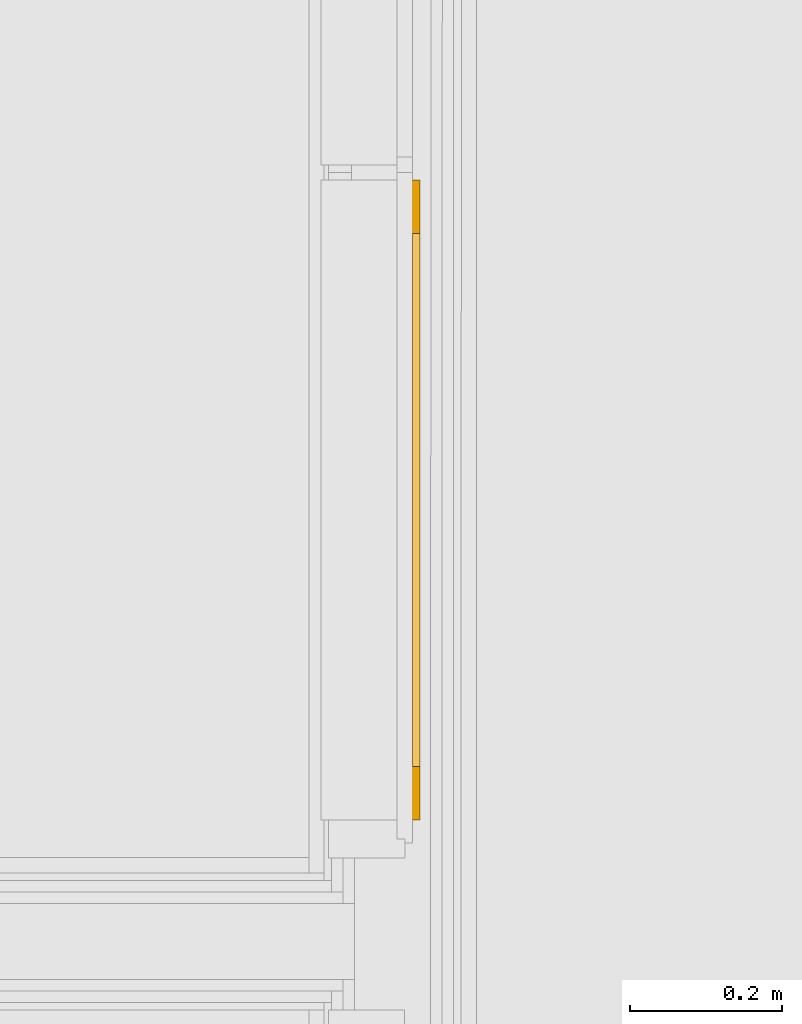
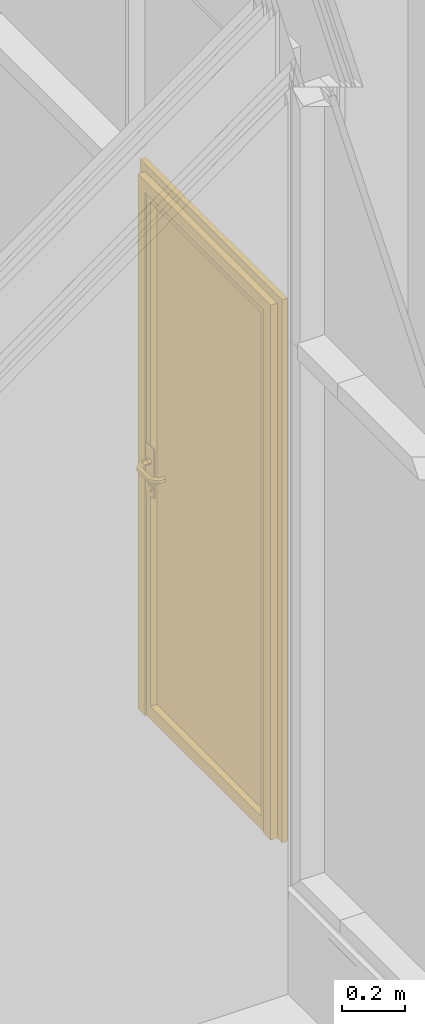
# One storey, part 243 of 260: 1 door, 1 element without a shape of its own.
"""IFC2X3 building model written with IfcOpenShell, lengths in millimetres."""

from ifc_helpers import new_model, entity, si_unit, converted_unit, derived_unit, money_unit, direction, frame, origin_with_axes, place, context, subcontext, project, spatial, open_shell, faceted_brep, surface_model, material, material_list, type_object, element, aggregate, save


model = new_model("IFC2X3")

# Units and contexts
model_context = context("Model", 3, precision=0.01, world=origin_with_axes(), true_north=direction((0.0, 1.0)))
body_context = subcontext(model_context, "Body", "Model", "MODEL_VIEW")
ifc_project = project(units=[si_unit("LENGTHUNIT", "METRE", prefix="MILLI"), si_unit("AREAUNIT", "SQUARE_METRE"), si_unit("VOLUMEUNIT", "CUBIC_METRE"), converted_unit("PLANEANGLEUNIT", "DEGREE", entity("IfcPlaneAngleMeasure", 0.0174532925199), si_unit("PLANEANGLEUNIT", "RADIAN"), dimensions=[0, 0, 0, 0, 0, 0, 0]), money_unit("EUR"), converted_unit("TIMEUNIT", "Year", entity("IfcTimeMeasure", 31556926.0), si_unit("TIMEUNIT", "SECOND"), dimensions=[0, 0, 1, 0, 0, 0, 0]), si_unit("MASSUNIT", "GRAM", prefix="KILO"), si_unit("THERMODYNAMICTEMPERATUREUNIT", "DEGREE_CELSIUS"), si_unit("LUMINOUSINTENSITYUNIT", "LUMEN"), si_unit("ENERGYUNIT", "JOULE", prefix="MEGA"), derived_unit("THERMALCONDUCTANCEUNIT", [(si_unit("POWERUNIT", "WATT"), 1), (si_unit("LENGTHUNIT", "METRE"), -1), (si_unit("THERMODYNAMICTEMPERATUREUNIT", "KELVIN"), -1)]), derived_unit("SPECIFICHEATCAPACITYUNIT", [(si_unit("ENERGYUNIT", "JOULE"), 1), (si_unit("MASSUNIT", "GRAM", prefix="KILO"), -1), (si_unit("THERMODYNAMICTEMPERATUREUNIT", "KELVIN"), -1)]), derived_unit("MASSDENSITYUNIT", [(si_unit("MASSUNIT", "GRAM", prefix="KILO"), 1), (si_unit("VOLUMEUNIT", "CUBIC_METRE"), -1)])], contexts=[model_context])

# Site, building, storey
site_placement = place(None, origin_with_axes())
site = spatial("IfcSite", under=ifc_project, at=site_placement, Name="Kolde pst 67a", CompositionType="ELEMENT")
building_placement = place(site_placement, origin_with_axes())
building = spatial("IfcBuilding", under=site, at=building_placement, Name="Riigigümnaasium", CompositionType="ELEMENT")
storey_placement = place(building_placement, origin_with_axes())
storey = spatial("IfcBuildingStorey", under=building, at=storey_placement, Name="1. korrus", CompositionType="ELEMENT", Elevation=0.0)

# Curtain wall, door
curtain_wall_type = type_object("IfcCurtainWallType", Name="Curtain Wall Type", PredefinedType="NOTDEFINED")
curtain_wall_placement = place(storey_placement, frame((11015.6058867, 55913.7308132, 399.999999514), z_axis=(0.0, 0.0, 1.0), x_axis=(1.0, 0.0, 0.0)))
curtain_wall = element("IfcCurtainWall", 1, at=curtain_wall_placement, inside=storey, type_object=curtain_wall_type, Name="KLAASSEIN")
ifc_material_1 = material(Name="_METALL - alumiinium")
ifc_material_2 = material(Name="_KLAAS - kirgas")
ifc_material_3 = material(Name="_METALL - roostevaba terasleht, harjatud, 1mm")
ifc_material_list = material_list([ifc_material_1, ifc_material_2, ifc_material_3])
door_style = type_object("IfcDoorStyle", Name="20 x 2100 x 20", ConstructionType="NOTDEFINED", OperationType="SINGLE_SWING_RIGHT", ParameterTakesPrecedence=False, Sizeable=False)
door_placement = place(curtain_wall_placement, frame((-0.0135530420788, -1219.36995036, 1050.00001335), z_axis=(0.0, 0.0, 1.0), x_axis=(-1.11147909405e-05, -0.999999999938, 0.0)))
door = element("IfcDoor", 2, at=door_placement, type_object=door_style, material=ifc_material_list, Name="Siseuks", ObjectType="DOOR", OverallHeight=2070.0, OverallWidth=840.0, context=body_context, shape_type="SurfaceModel", body=[
    faceted_brep([(399.999988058, -35.0, -1050.00001286), (399.999988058, -30.0, -1050.00001286), (399.999988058, -30.0, 1020.00001696), (399.999988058, -35.0, 1020.00001696), (354.999988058, -35.0, -1050.00001286), (354.999988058, -30.0, -1050.00001286), (354.999988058, -30.0, 975.000016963), (354.999988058, -35.0, 975.000016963)], [[[0, 1, 2, 3]], [[4, 5, 1, 0]], [[1, 5, 6, 2]], [[3, 2, 6, 7]], [[0, 3, 7, 4]], [[7, 6, 5, 4]]]),
    faceted_brep([(-439.999990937, -35.0, 1020.00001696), (-439.999990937, -30.0, 1020.00001696), (-394.999990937, -30.0, 975.000016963), (-394.999990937, -35.0, 975.000016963), (399.999988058, -35.0, 1020.00001696), (399.999988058, -30.0, 1020.00001696), (354.999988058, -30.0, 975.000016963), (354.999988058, -35.0, 975.000016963)], [[[0, 1, 2, 3]], [[4, 5, 1, 0]], [[1, 5, 6, 2]], [[3, 2, 6, 7]], [[0, 3, 7, 4]], [[7, 6, 5, 4]]]),
    faceted_brep([(-439.999990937, -35.0, -1050.00001286), (-439.999990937, -30.0, -1050.00001286), (-394.999990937, -30.0, -1050.00001286), (-394.999990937, -35.0, -1050.00001286), (-439.999990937, -35.0, 1020.00001696), (-439.999990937, -30.0, 1020.00001696), (-394.999990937, -30.0, 975.000016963), (-394.999990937, -35.0, 975.000016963)], [[[0, 1, 2, 3]], [[4, 5, 1, 0]], [[1, 5, 6, 2]], [[3, 2, 6, 7]], [[0, 3, 7, 4]], [[7, 6, 5, 4]]]),
    faceted_brep([(399.999988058, -30.0, -1050.00001286), (399.999988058, 20.0, -1050.00001286), (399.999988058, 20.0, 1020.00001696), (399.999988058, -30.0, 1020.00001696), (379.999988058, -30.0, -1050.00001286), (379.999988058, 20.0, -1050.00001286), (379.999988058, 20.0, 1000.00001696), (379.999988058, -30.0, 1000.00001696)], [[[0, 1, 2, 3]], [[4, 5, 1, 0]], [[1, 5, 6, 2]], [[3, 2, 6, 7]], [[0, 3, 7, 4]], [[7, 6, 5, 4]]]),
    faceted_brep([(-439.999990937, -30.0, 1020.00001696), (-439.999990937, 20.0, 1020.00001696), (-419.999990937, 20.0, 1000.00001696), (-419.999990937, -30.0, 1000.00001696), (399.999988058, -30.0, 1020.00001696), (399.999988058, 20.0, 1020.00001696), (379.999988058, 20.0, 1000.00001696), (379.999988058, -30.0, 1000.00001696)], [[[0, 1, 2, 3]], [[4, 5, 1, 0]], [[1, 5, 6, 2]], [[3, 2, 6, 7]], [[0, 3, 7, 4]], [[7, 6, 5, 4]]]),
    faceted_brep([(-439.999990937, -30.0, -1050.00001286), (-439.999990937, 20.0, -1050.00001286), (-419.999990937, 20.0, -1050.00001286), (-419.999990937, -30.0, -1050.00001286), (-439.999990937, -30.0, 1020.00001696), (-439.999990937, 20.0, 1020.00001696), (-419.999990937, 20.0, 1000.00001696), (-419.999990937, -30.0, 1000.00001696)], [[[0, 1, 2, 3]], [[4, 5, 1, 0]], [[1, 5, 6, 2]], [[3, 2, 6, 7]], [[0, 3, 7, 4]], [[7, 6, 5, 4]]]),
    faceted_brep([(430.000002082, -10.0, -1050.00001286), (430.000002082, 10.0, -1050.00001286), (430.000002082, 10.0, 1050.00001286), (430.000002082, -10.0, 1050.00001286), (399.999988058, -10.0, -1050.00001286), (399.999988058, 10.0, -1050.00001286), (399.999988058, 10.0, 1020.00001696), (399.999988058, -10.0, 1020.00001696)], [[[0, 1, 2, 3]], [[4, 5, 1, 0]], [[1, 5, 6, 2]], [[3, 2, 6, 7]], [[0, 3, 7, 4]], [[7, 6, 5, 4]]]),
    faceted_brep([(430.000002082, -10.0, 1050.00001286), (430.000002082, 10.0, 1050.00001286), (-470.0, 10.0, 1050.00001286), (-470.0, -10.0, 1050.00001286), (399.999988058, -10.0, 1020.00001696), (399.999988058, 10.0, 1020.00001696), (-439.999990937, 10.0, 1020.00001696), (-439.999990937, -10.0, 1020.00001696)], [[[0, 1, 2, 3]], [[4, 5, 1, 0]], [[1, 5, 6, 2]], [[3, 2, 6, 7]], [[0, 3, 7, 4]], [[7, 6, 5, 4]]]),
    faceted_brep([(-470.0, -10.0, 1050.00001286), (-470.0, 10.0, 1050.00001286), (-470.0, 10.0, -1050.00001286), (-470.0, -10.0, -1050.00001286), (-439.999990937, -10.0, 1020.00001696), (-439.999990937, 10.0, 1020.00001696), (-439.999990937, 10.0, -1050.00001286), (-439.999990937, -10.0, -1050.00001286)], [[[0, 1, 2, 3]], [[4, 5, 1, 0]], [[1, 5, 6, 2]], [[3, 2, 6, 7]], [[0, 3, 7, 4]], [[7, 6, 5, 4]]]),
    faceted_brep([(-369.999990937, -30.0, -1000.00001286), (-369.999990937, 20.0, -1000.00001286), (-369.999990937, 20.0, 950.000016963), (-369.999990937, -30.0, 950.000016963), (-419.999990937, -30.0, -1050.00001286), (-419.999990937, 20.0, -1050.00001286), (-419.999990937, 20.0, 1000.00001696), (-419.999990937, -30.0, 1000.00001696)], [[[0, 1, 2, 3]], [[4, 5, 1, 0]], [[1, 5, 6, 2]], [[3, 2, 6, 7]], [[0, 3, 7, 4]], [[7, 6, 5, 4]]]),
    faceted_brep([(379.999988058, -30.0, -1050.00001286), (379.999988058, 20.0, -1050.00001286), (379.999988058, 20.0, 1000.00001696), (379.999988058, -30.0, 1000.00001696), (329.999988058, -30.0, -1000.00001286), (329.999988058, 20.0, -1000.00001286), (329.999988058, 20.0, 950.000016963), (329.999988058, -30.0, 950.000016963)], [[[0, 1, 2, 3]], [[4, 5, 1, 0]], [[1, 5, 6, 2]], [[3, 2, 6, 7]], [[0, 3, 7, 4]], [[7, 6, 5, 4]]]),
    faceted_brep([(379.999988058, -30.0, -1050.00001286), (379.999988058, 20.0, -1050.00001286), (329.999988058, 20.0, -1000.00001286), (329.999988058, -30.0, -1000.00001286), (-419.999990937, -30.0, -1050.00001286), (-419.999990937, 20.0, -1050.00001286), (-369.999990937, 20.0, -1000.00001286), (-369.999990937, -30.0, -1000.00001286)], [[[0, 1, 2, 3]], [[4, 5, 1, 0]], [[1, 5, 6, 2]], [[3, 2, 6, 7]], [[0, 3, 7, 4]], [[7, 6, 5, 4]]]),
    faceted_brep([(-419.999990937, -30.0, 1000.00001696), (-419.999990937, 20.0, 1000.00001696), (-369.999990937, 20.0, 950.000016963), (-369.999990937, -30.0, 950.000016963), (379.999988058, -30.0, 1000.00001696), (379.999988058, 20.0, 1000.00001696), (329.999988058, 20.0, 950.000016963), (329.999988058, -30.0, 950.000016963)], [[[0, 1, 2, 3]], [[4, 5, 1, 0]], [[1, 5, 6, 2]], [[3, 2, 6, 7]], [[0, 3, 7, 4]], [[7, 6, 5, 4]]]),
    faceted_brep([(-369.999990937, -6.0, -1000.00001286), (-369.999990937, 10.0, -1000.00001286), (329.999988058, 10.0, -1000.00001286), (329.999988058, -6.0, -1000.00001286), (-369.999990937, -6.0, 950.000016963), (-369.999990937, 10.0, 950.000016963), (329.999988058, 10.0, 950.000016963), (329.999988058, -6.0, 950.000016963)], [[[0, 1, 2, 3]], [[4, 5, 1, 0]], [[1, 5, 6, 2]], [[3, 2, 6, 7]], [[0, 3, 7, 4]], [[7, 6, 5, 4]]]),
    faceted_brep([(-398.499990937, 20.0, 9.99998714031), (-341.499990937, 20.0, 9.99998714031), (-341.499990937, 23.0, 9.99998714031), (-398.499990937, 23.0, 9.99998714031), (-398.499990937, 20.0, -180.00001286), (-341.499990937, 20.0, -180.00001286), (-341.499990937, 23.0, -180.00001286), (-398.499990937, 23.0, -180.00001286)], [[[0, 1, 2, 3]], [[0, 4, 5, 1]], [[1, 5, 6, 2]], [[3, 2, 6, 7]], [[4, 0, 3, 7]], [[5, 4, 7, 6]]]),
    faceted_brep([(-366.291787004, 33.0, -61.4126910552), (-357.999990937, 33.0, -50.0000128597), (-356.999990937, 23.0, -50.0000128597), (-365.98277001, 23.0, -62.3637475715), (-379.708194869, 33.0, -57.0534358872), (-379.708194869, 33.0, -42.9465898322), (-366.291787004, 33.0, -38.5873346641), (-365.98277001, 23.0, -37.6362781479), (-380.517211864, 23.0, -42.3588045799), (-380.517211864, 23.0, -57.6412211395)], [[[0, 1, 2, 3]], [[1, 0, 4, 5, 6]], [[1, 6, 7, 2]], [[2, 7, 8, 9, 3]], [[4, 0, 3, 9]], [[5, 4, 9, 8]], [[6, 5, 8, 7]]]),
    faceted_brep([(-363.819651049, 27.0, -164.021143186), (-349.999990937, 27.0, -145.00001286), (-347.999990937, 23.0, -145.00001286), (-363.201617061, 23.0, -165.923256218), (-386.180330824, 27.0, -156.755717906), (-386.180330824, 27.0, -133.244307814), (-363.819651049, 27.0, -125.978882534), (-363.201617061, 23.0, -124.076769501), (-387.798364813, 23.0, -132.068737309), (-387.798364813, 23.0, -157.93128841)], [[[0, 1, 2, 3]], [[1, 0, 4, 5, 6]], [[1, 6, 7, 2]], [[2, 7, 8, 9, 3]], [[4, 0, 3, 9]], [[5, 4, 9, 8]], [[6, 5, 8, 7]]]),
    faceted_brep([(-367.836871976, 29.0, -142.657408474), (-362.999990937, 29.0, -136.00001286), (-361.999990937, 27.0, -136.00001286), (-367.527854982, 27.0, -143.60846499), (-375.663109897, 29.0, -140.114509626), (-375.663109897, 29.0, -131.885516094), (-367.836871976, 29.0, -129.342617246), (-367.527854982, 27.0, -128.391560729), (-376.472126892, 27.0, -131.297730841), (-376.472126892, 27.0, -140.702294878)], [[[0, 1, 2, 3]], [[1, 0, 4, 5, 6]], [[1, 6, 7, 2]], [[2, 7, 8, 9, 3]], [[4, 0, 3, 9]], [[5, 4, 9, 8]], [[6, 5, 8, 7]]]),
    surface_model("IfcShellBasedSurfaceModel", [(-359.999990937, 33.0, -50.0000128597), (-366.909820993, 33.0, -59.5105780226), (-366.909820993, 51.7200096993, -59.5105780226), (-359.999990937, 48.8578643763, -50.0000128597), (-378.090160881, 33.0, -55.8778653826), (-378.090160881, 56.3510581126, -55.8778653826), (-348.720000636, 69.9098300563, -59.5105780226), (-345.857855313, 63.0, -50.0000128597), (-366.909820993, 33.0, -40.4894476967), (-366.909820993, 51.7200096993, -40.4894476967), (-378.090160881, 33.0, -44.1221603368), (-378.090160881, 56.3510581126, -44.1221603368), (-353.351049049, 81.0901699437, -55.8778653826), (-281.279981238, 69.9098300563, -59.5105780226), (-284.142126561, 63.0, -50.0000128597), (-348.720000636, 69.9098300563, -40.4894476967), (-353.351049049, 81.0901699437, -44.1221603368), (-276.648932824, 81.0901699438, -55.8778653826), (-263.090160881, 51.7200096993, -59.5105780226), (-269.999990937, 48.8578643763, -50.0000128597), (-281.279981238, 69.9098300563, -40.4894476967), (-276.648932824, 81.0901699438, -44.1221603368), (-251.909820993, 56.3510581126, -55.8778653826), (-263.090160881, 33.0, -59.5105780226), (-269.999990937, 33.0, -50.0000128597), (-263.090160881, 51.7200096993, -40.4894476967), (-251.909820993, 56.3510581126, -44.1221603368), (-251.909820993, 33.0, -55.8778653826), (-251.909820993, 33.0, -44.1221603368), (-263.090160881, 33.0, -40.4894476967)], [open_shell([[[0, 1, 2, 3]], [[1, 4, 5, 2]], [[3, 2, 6, 7]], [[8, 0, 3, 9]], [[4, 10, 11, 5]], [[2, 5, 12, 6]], [[7, 6, 13, 14]], [[9, 3, 7, 15]], [[10, 8, 9, 11]], [[5, 11, 16, 12]], [[6, 12, 17, 13]], [[14, 13, 18, 19]], [[15, 7, 14, 20]], [[11, 9, 15, 16]], [[12, 16, 21, 17]], [[13, 17, 22, 18]], [[19, 18, 23, 24]], [[20, 14, 19, 25]], [[16, 15, 20, 21]], [[17, 21, 26, 22]], [[18, 22, 27, 23]], [[24, 23, 27, 28, 29]], [[25, 19, 24, 29]], [[21, 20, 25, 26]], [[22, 26, 28, 27]], [[26, 25, 29, 28]]])]),
    faceted_brep([(-398.499990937, -30.0, 9.99998714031), (-398.499990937, -33.0, 9.99998714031), (-341.499990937, -33.0, 9.99998714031), (-341.499990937, -30.0, 9.99998714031), (-398.499990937, -30.0, -180.00001286), (-398.499990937, -33.0, -180.00001286), (-341.499990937, -33.0, -180.00001286), (-341.499990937, -30.0, -180.00001286)], [[[0, 1, 2, 3]], [[4, 5, 1, 0]], [[1, 5, 6, 2]], [[3, 2, 6, 7]], [[0, 3, 7, 4]], [[7, 6, 5, 4]]]),
    faceted_brep([(-366.291787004, -43.0, -61.4126910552), (-365.98277001, -33.0, -62.3637475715), (-356.999990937, -33.0, -50.0000128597), (-357.999990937, -43.0, -50.0000128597), (-379.708194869, -43.0, -57.0534358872), (-380.517211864, -33.0, -57.6412211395), (-380.517211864, -33.0, -42.3588045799), (-365.98277001, -33.0, -37.6362781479), (-366.291787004, -43.0, -38.5873346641), (-379.708194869, -43.0, -42.9465898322)], [[[0, 1, 2, 3]], [[4, 5, 1, 0]], [[2, 1, 5, 6, 7]], [[3, 2, 7, 8]], [[3, 8, 9, 4, 0]], [[9, 6, 5, 4]], [[8, 7, 6, 9]]]),
    faceted_brep([(-363.819651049, -37.0, -164.021143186), (-363.201617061, -33.0, -165.923256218), (-347.999990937, -33.0, -145.00001286), (-349.999990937, -37.0, -145.00001286), (-386.180330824, -37.0, -156.755717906), (-387.798364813, -33.0, -157.93128841), (-387.798364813, -33.0, -132.068737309), (-363.201617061, -33.0, -124.076769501), (-363.819651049, -37.0, -125.978882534), (-386.180330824, -37.0, -133.244307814)], [[[0, 1, 2, 3]], [[4, 5, 1, 0]], [[2, 1, 5, 6, 7]], [[3, 2, 7, 8]], [[3, 8, 9, 4, 0]], [[9, 6, 5, 4]], [[8, 7, 6, 9]]]),
    faceted_brep([(-367.836871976, -39.0, -142.657408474), (-367.527854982, -37.0, -143.60846499), (-361.999990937, -37.0, -136.00001286), (-362.999990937, -39.0, -136.00001286), (-375.663109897, -39.0, -140.114509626), (-376.472126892, -37.0, -140.702294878), (-376.472126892, -37.0, -131.297730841), (-367.527854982, -37.0, -128.391560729), (-367.836871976, -39.0, -129.342617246), (-375.663109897, -39.0, -131.885516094)], [[[0, 1, 2, 3]], [[4, 5, 1, 0]], [[2, 1, 5, 6, 7]], [[3, 2, 7, 8]], [[3, 8, 9, 4, 0]], [[9, 6, 5, 4]], [[8, 7, 6, 9]]]),
    surface_model("IfcShellBasedSurfaceModel", [(-359.999990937, -43.0, -50.0000128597), (-359.999990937, -58.8578643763, -50.0000128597), (-366.909820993, -61.7200096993, -59.5105780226), (-366.909820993, -43.0, -59.5105780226), (-366.909820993, -43.0, -40.4894476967), (-366.909820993, -61.7200096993, -40.4894476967), (-345.857855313, -73.0, -50.0000128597), (-348.720000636, -79.9098300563, -59.5105780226), (-378.090160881, -66.3510581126, -55.8778653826), (-378.090160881, -43.0, -55.8778653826), (-378.090160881, -43.0, -44.1221603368), (-378.090160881, -66.3510581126, -44.1221603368), (-348.720000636, -79.9098300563, -40.4894476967), (-284.142126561, -73.0, -50.0000128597), (-281.279981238, -79.9098300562, -59.5105780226), (-353.351049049, -91.0901699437, -55.8778653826), (-353.351049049, -91.0901699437, -44.1221603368), (-281.279981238, -79.9098300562, -40.4894476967), (-269.999990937, -58.8578643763, -50.0000128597), (-263.090160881, -61.7200096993, -59.5105780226), (-276.648932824, -91.0901699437, -55.8778653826), (-276.648932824, -91.0901699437, -44.1221603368), (-263.090160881, -61.7200096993, -40.4894476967), (-269.999990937, -43.0, -50.0000128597), (-263.090160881, -43.0, -59.5105780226), (-251.909820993, -66.3510581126, -55.8778653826), (-251.909820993, -66.3510581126, -44.1221603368), (-263.090160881, -43.0, -40.4894476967), (-251.909820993, -43.0, -44.1221603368), (-251.909820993, -43.0, -55.8778653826)], [open_shell([[[0, 1, 2, 3]], [[4, 5, 1, 0]], [[1, 6, 7, 2]], [[3, 2, 8, 9]], [[10, 11, 5, 4]], [[5, 12, 6, 1]], [[6, 13, 14, 7]], [[2, 7, 15, 8]], [[9, 8, 11, 10]], [[11, 16, 12, 5]], [[12, 17, 13, 6]], [[13, 18, 19, 14]], [[7, 14, 20, 15]], [[8, 15, 16, 11]], [[16, 21, 17, 12]], [[17, 22, 18, 13]], [[18, 23, 24, 19]], [[14, 19, 25, 20]], [[15, 20, 21, 16]], [[21, 26, 22, 17]], [[22, 27, 23, 18]], [[23, 27, 28, 29, 24]], [[19, 24, 29, 25]], [[20, 25, 26, 21]], [[26, 28, 27, 22]], [[25, 29, 28, 26]]])]),
])
aggregate(curtain_wall, [door])

save(model, "model.ifc")
